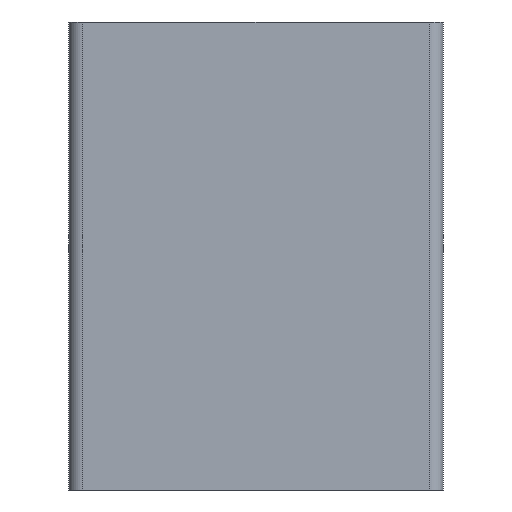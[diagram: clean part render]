
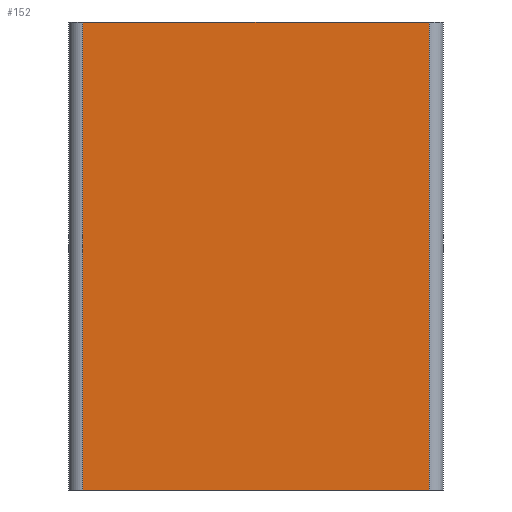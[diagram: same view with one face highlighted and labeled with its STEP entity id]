
A CAD part, left-side view. The second image highlights one B-rep face of the part: STEP entity #152.
In plain terms, the highlighted planar face has unit normal (-1, 0, 0).
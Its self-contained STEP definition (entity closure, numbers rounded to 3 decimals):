
#152=ADVANCED_FACE('',(#356),#357,.F.);
#356=FACE_OUTER_BOUND('',#611,.T.);
#357=PLANE('',#612);
#611=EDGE_LOOP('',(#975,#976,#977,#978));
#612=AXIS2_PLACEMENT_3D('',#979,#980,#981);
#975=ORIENTED_EDGE('',*,*,#1707,.T.);
#976=ORIENTED_EDGE('',*,*,#1700,.F.);
#977=ORIENTED_EDGE('',*,*,#1708,.F.);
#978=ORIENTED_EDGE('',*,*,#1709,.T.);
#979=CARTESIAN_POINT('',(0.,38.5,50.0));
#980=DIRECTION('',(1.0,0.0,-0.0));
#981=DIRECTION('',(0.0,0.0,1.0));
#1700=EDGE_CURVE('',#2094,#2089,#2096,.T.);
#1707=EDGE_CURVE('',#2107,#2089,#2108,.T.);
#1708=EDGE_CURVE('',#2109,#2094,#2110,.T.);
#1709=EDGE_CURVE('',#2109,#2107,#2111,.T.);
#2089=VERTEX_POINT('',#2632);
#2094=VERTEX_POINT('',#2638);
#2096=LINE('',#2640,#2641);
#2107=VERTEX_POINT('',#2656);
#2108=LINE('',#2657,#2658);
#2109=VERTEX_POINT('',#2659);
#2110=LINE('',#2660,#2661);
#2111=LINE('',#2662,#2663);
#2632=CARTESIAN_POINT('',(0.,1.5,0.0));
#2638=CARTESIAN_POINT('',(0.,1.5,50.0));
#2640=CARTESIAN_POINT('',(0.,1.5,50.0));
#2641=VECTOR('',#3160,1.0);
#2656=CARTESIAN_POINT('',(0.,38.5,0.0));
#2657=CARTESIAN_POINT('',(0.,38.5,0.0));
#2658=VECTOR('',#3165,1.0);
#2659=CARTESIAN_POINT('',(0.,38.5,50.0));
#2660=CARTESIAN_POINT('',(0.,38.5,50.0));
#2661=VECTOR('',#3166,1.0);
#2662=CARTESIAN_POINT('',(0.,38.5,50.0));
#2663=VECTOR('',#3167,1.0);
#3160=DIRECTION('',(0.0,0.0,-1.0));
#3165=DIRECTION('',(0.0,-1.0,0.0));
#3166=DIRECTION('',(0.0,-1.0,0.0));
#3167=DIRECTION('',(0.0,0.0,-1.0));
